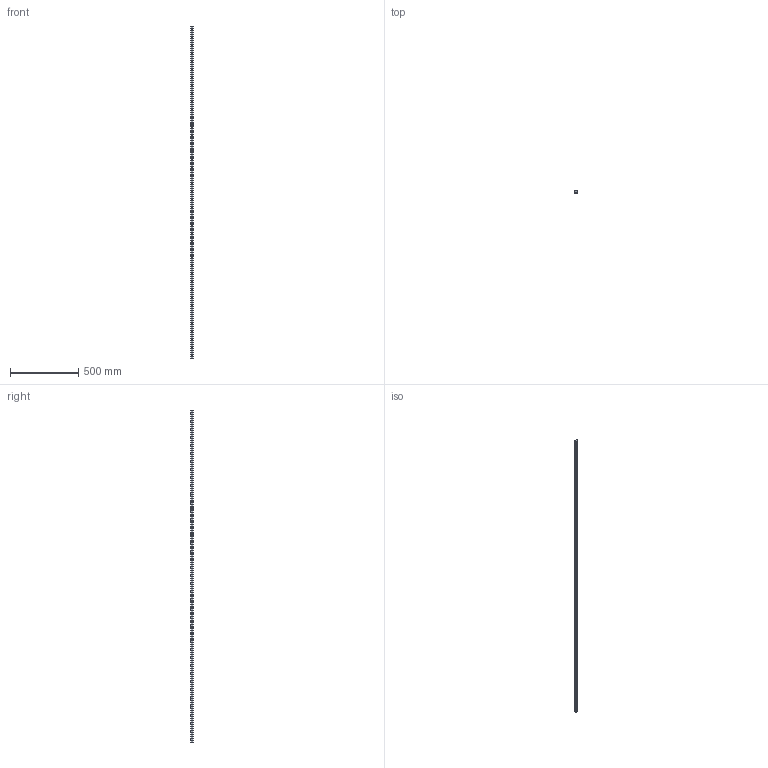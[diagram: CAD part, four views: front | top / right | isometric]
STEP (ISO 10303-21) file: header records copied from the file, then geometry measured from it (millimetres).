
FILE_DESCRIPTION (( 'STEP AP203' ), '1' );
FILE_NAME ('L1016.BL20-2440.step', '2019-06-12T11:53:00', ( '' ), ( '' ), 'SwSTEP 2.0', 'SolidWorks 2017', '' );
FILE_SCHEMA (( 'CONFIG_CONTROL_DESIGN' ));
Length unit declared in the file: millimetre
Products named in the file (1): L1016.BL20-2440
Bounding box: 20 x 16.3 x 2440 mm (x, y, z)
Volume: 678206.9 mm3; surface area: 196381.6 mm2
Topology: 1 solids, 1 shells, 231 faces, 564 edges, 376 vertices
Faces by surface type: cylinder 168, plane 63
Entity records: 7215 total; most frequent: DIRECTION 1364, CARTESIAN_POINT 1172, ORIENTED_EDGE 1128, AXIS2_PLACEMENT_3D 568, EDGE_CURVE 564, VERTEX_POINT 376, EDGE_LOOP 354, CIRCLE 336
